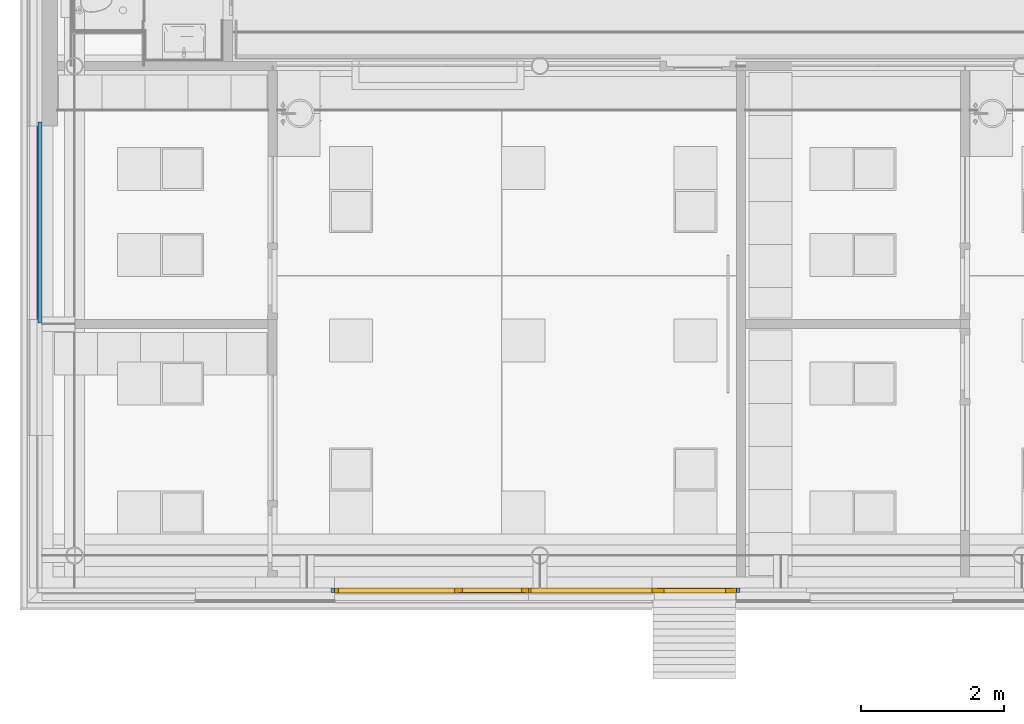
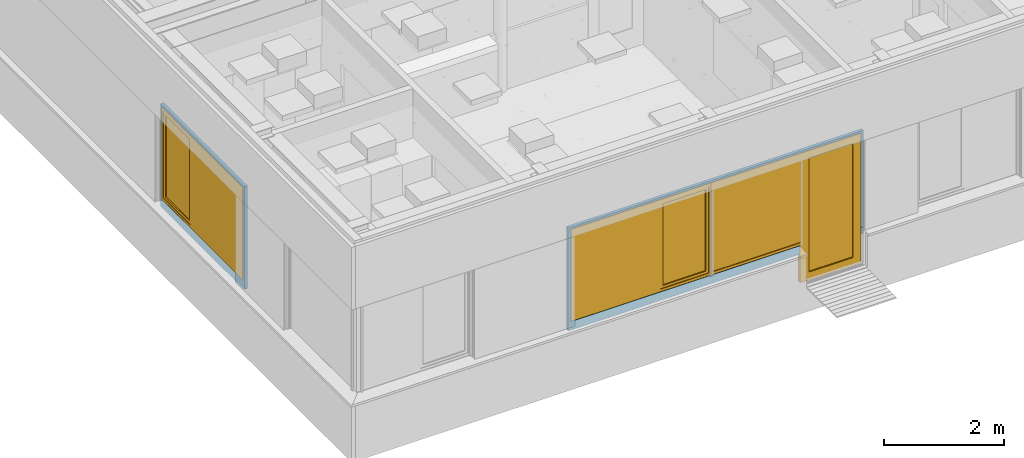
# One storey, part 1 of 347: 2 members, 2 windows, 1 door, 3 openings.
"""IFC2X3 building model written with IfcOpenShell, lengths in millimetres."""

from ifc_helpers import new_model, entity, si_unit, converted_unit, derived_unit, money_unit, direction, frame, origin_with_axes, place, context, subcontext, project, spatial, open_shell, faceted_brep, surface_model, source, transform, mapped, material, type_object, type_shapes, element, fill, save


model = new_model("IFC2X3")

# Units and contexts
model_context = context("Model", 3, precision=0.01, world=origin_with_axes(), true_north=direction((0.0, 1.0)))
plan_context = context("Plan", 3, precision=0.01, world=origin_with_axes(), true_north=direction((0.0, 1.0)))
body_context = subcontext(model_context, "Body", "Model", "MODEL_VIEW")
ifc_project = project(units=[si_unit("LENGTHUNIT", "METRE", prefix="MILLI"), si_unit("AREAUNIT", "SQUARE_METRE"), si_unit("VOLUMEUNIT", "CUBIC_METRE"), converted_unit("PLANEANGLEUNIT", "DEGREE", entity("IfcPlaneAngleMeasure", 0.0174532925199), si_unit("PLANEANGLEUNIT", "RADIAN"), dimensions=[0, 0, 0, 0, 0, 0, 0]), money_unit("EUR"), converted_unit("TIMEUNIT", "Year", entity("IfcTimeMeasure", 31556926.0), si_unit("TIMEUNIT", "SECOND"), dimensions=[0, 0, 1, 0, 0, 0, 0]), si_unit("MASSUNIT", "GRAM", prefix="KILO"), si_unit("THERMODYNAMICTEMPERATUREUNIT", "DEGREE_CELSIUS"), si_unit("LUMINOUSINTENSITYUNIT", "LUMEN"), si_unit("ENERGYUNIT", "JOULE", prefix="MEGA"), derived_unit("THERMALCONDUCTANCEUNIT", [(si_unit("POWERUNIT", "WATT"), 1), (si_unit("LENGTHUNIT", "METRE"), -1), (si_unit("THERMODYNAMICTEMPERATUREUNIT", "KELVIN"), -1)]), derived_unit("SPECIFICHEATCAPACITYUNIT", [(si_unit("ENERGYUNIT", "JOULE"), 1), (si_unit("MASSUNIT", "GRAM", prefix="KILO"), -1), (si_unit("THERMODYNAMICTEMPERATUREUNIT", "KELVIN"), -1)]), derived_unit("MASSDENSITYUNIT", [(si_unit("MASSUNIT", "GRAM", prefix="KILO"), 1), (si_unit("VOLUMEUNIT", "CUBIC_METRE"), -1)])], contexts=[model_context, plan_context])

# Site, building, storey
site_placement = place(None, origin_with_axes())
site = spatial("IfcSite", under=ifc_project, at=site_placement, Name="Site", CompositionType="ELEMENT")
building_placement = place(site_placement, origin_with_axes())
building = spatial("IfcBuilding", under=site, at=building_placement, Name="Naam gebouw", CompositionType="ELEMENT")
storey_placement = place(building_placement, origin_with_axes())
storey = spatial("IfcBuildingStorey", under=building, at=storey_placement, Name="begane grond", CompositionType="ELEMENT", Elevation=0.0)

# Member, opening, window
ifc_material = material(Name="31 pui/kozijn")
member_type = type_object("IfcMemberType", Name="31 pui/kozijn 62", PredefinedType="MEMBER")
member_1_placement = place(storey_placement, frame((4849.99683854, 8540.0, 535.00000231), z_axis=(0.0, 0.0, 1.0), x_axis=(8.95616790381e-06, 0.99999999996, 0.0)))
member_1 = element("IfcMember", 1, at=member_1_placement, inside=storey, type_object=member_type, material=ifc_material, Name="21_31 buitenkozijn pui", ObjectType="MEMBER", context=body_context, shape_type="Brep", body=[
    faceted_brep([(0.0, 62.0, 0.0), (0.0, 62.0, 2100.0), (2800.0, 62.0, 2100.0), (2800.0, 62.0, 0.0), (49.9972863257, 62.0, 184.99999769), (2749.99728633, 62.0, 184.99999769), (2749.99728633, 62.0, 2064.99999769), (49.9972863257, 62.0, 2064.99999769), (0.0, 0.0, 2100.0), (0.0, 0.0, 0.0), (2800.0, 0.0, 2100.0), (2800.0, 0.0, 0.0), (49.9972863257, 0.0, 184.99999769), (2749.99728633, 0.0, 184.99999769), (2749.99728633, 0.0, 2064.99999769), (49.9972863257, 0.0, 2064.99999769)], [[[0, 1, 2, 3], [4, 5, 6, 7]], [[8, 1, 0, 9]], [[1, 8, 10, 2]], [[10, 11, 3, 2]], [[9, 0, 3, 11]], [[12, 13, 5, 4]], [[13, 14, 6, 5]], [[14, 15, 7, 6]], [[15, 12, 4, 7]], [[8, 9, 11, 10], [12, 15, 14, 13]]]),
])
opening_1_placement = place(member_1_placement, frame((1399.99728633, 0.0, 184.99999769), z_axis=(0.0, 0.0, 1.0), x_axis=(1.0, 0.0, 0.0)))
opening_1 = element("IfcOpeningElement", 2, at=opening_1_placement, cuts=member_1, Name="31_merk-AF", context=body_context, shape_type="Brep", body=[
    faceted_brep([(1350.0, 134.0, 0.0), (1350.0, 134.0, 1880.0), (1350.0, -62.0, 1880.0), (1350.0, -62.0, 0.0), (-1350.0, 134.0, 0.0), (-1350.0, 134.0, 1880.0), (-1350.0, -62.0, 1880.0), (-1350.0, -62.0, 0.0)], [[[0, 1, 2, 3]], [[0, 4, 5, 1]], [[1, 5, 6, 2]], [[3, 2, 6, 7]], [[4, 0, 3, 7]], [[5, 4, 7, 6]]]),
])
window_style_1 = type_object("IfcWindowStyle", Name="Rmeerkeuze 25", ConstructionType="NOTDEFINED", OperationType="DOUBLE_PANEL_VERTICAL", ParameterTakesPrecedence=False, Sizeable=False)
shared_shape_1 = source(origin_with_axes(), body_context, "Body", "SurfaceModel", [
    faceted_brep([(-1296.0, -62.0, 1826.0), (-1311.0, -62.0, 1826.0), (-1311.0, 0.0, 1826.0), (-1350.0, 0.0, 1826.0), (-1350.0, -72.0, 1826.0), (-1296.0, -72.0, 1826.0), (-1296.0, -62.0, 54.0), (-1311.0, -62.0, 54.0), (-1311.0, 0.0, 54.0), (-1350.0, 0.0, 54.0), (-1350.0, -72.0, 54.0), (-1296.0, -72.0, 54.0)], [[[0, 1, 2, 3, 4, 5]], [[1, 0, 6, 7]], [[8, 2, 1, 7]], [[2, 8, 9, 3]], [[9, 10, 4, 3]], [[10, 11, 5, 4]], [[6, 0, 5, 11]], [[7, 6, 11, 10, 9, 8]]]),
    faceted_brep([(-362.0, 0.0, 1826.0), (-362.0, -62.0, 1826.0), (-377.0, -62.0, 1826.0), (-377.0, -72.0, 1826.0), (-323.0, -72.0, 1826.0), (-323.0, 0.0, 1826.0), (-362.0, 0.0, 54.0), (-362.0, -62.0, 54.0), (-377.0, -62.0, 54.0), (-377.0, -72.0, 54.0), (-323.0, -72.0, 54.0), (-323.0, 0.0, 54.0)], [[[0, 1, 2, 3, 4, 5]], [[1, 0, 6, 7]], [[8, 2, 1, 7]], [[2, 8, 9, 3]], [[9, 10, 4, 3]], [[5, 4, 10, 11]], [[6, 0, 5, 11]], [[7, 6, 11, 10, 9, 8]]]),
    faceted_brep([(-1296.0, -62.0, 54.0), (-1311.0, -62.0, 54.0), (-1311.0, 0.0, 54.0), (-1350.0, 0.0, 54.0), (-1350.0, -72.0, 54.0), (-1296.0, -72.0, 54.0), (-377.0, -62.0, 54.0), (-362.0, -62.0, 54.0), (-362.0, -62.0, 39.0), (-1311.0, -62.0, 39.0), (-1311.0, 0.0, 39.0), (-362.0, 0.0, 39.0), (-362.0, 0.0, 54.0), (-323.0, 0.0, 54.0), (1296.0, 0.0, 54.0), (1350.0, 0.0, 54.0), (1350.0, 0.0, 0.0), (-1350.0, 0.0, 0.0), (-1350.0, -72.0, 0.0), (1350.0, -72.0, 54.0), (1296.0, -72.0, 54.0), (-323.0, -72.0, 54.0), (-377.0, -72.0, 54.0), (1350.0, -72.0, 0.0)], [[[0, 1, 2, 3, 4, 5]], [[1, 0, 6, 7, 8, 9]], [[10, 2, 1, 9]], [[11, 12, 13, 14, 15, 16, 17, 3, 2, 10]], [[17, 18, 4, 3]], [[19, 20, 21, 22, 5, 4, 18, 23]], [[6, 0, 5, 22]], [[7, 6, 22, 21, 13, 12]], [[7, 12, 11, 8]], [[11, 10, 9, 8]], [[13, 21, 20, 14]], [[14, 20, 19, 15]], [[15, 19, 23, 16]], [[16, 23, 18, 17]]]),
    faceted_brep([(-362.0, 0.0, 1826.0), (-362.0, 0.0, 1841.0), (-1311.0, 0.0, 1841.0), (-1311.0, 0.0, 1826.0), (-1350.0, 0.0, 1826.0), (-1350.0, 0.0, 1880.0), (1350.0, 0.0, 1880.0), (1350.0, 0.0, 1826.0), (1296.0, 0.0, 1826.0), (-323.0, 0.0, 1826.0), (-362.0, -62.0, 1826.0), (-362.0, -62.0, 1841.0), (-1311.0, -62.0, 1841.0), (-1311.0, -62.0, 1826.0), (-1296.0, -62.0, 1826.0), (-1296.0, -72.0, 1826.0), (-1350.0, -72.0, 1826.0), (-1350.0, -72.0, 1880.0), (1350.0, -72.0, 1880.0), (1350.0, -72.0, 1826.0), (1296.0, -72.0, 1826.0), (-323.0, -72.0, 1826.0), (-377.0, -72.0, 1826.0), (-377.0, -62.0, 1826.0)], [[[0, 1, 2, 3, 4, 5, 6, 7, 8, 9]], [[1, 0, 10, 11]], [[2, 1, 11, 12]], [[3, 2, 12, 13]], [[13, 14, 15, 16, 4, 3]], [[4, 16, 17, 5]], [[5, 17, 18, 6]], [[6, 18, 19, 7]], [[7, 19, 20, 8]], [[8, 20, 21, 9]], [[10, 0, 9, 21, 22, 23]], [[14, 13, 12, 11, 10, 23]], [[14, 23, 22, 15]], [[22, 21, 20, 19, 18, 17, 16, 15]]]),
    faceted_brep([(1296.0, -72.0, 1826.0), (1350.0, -72.0, 1826.0), (1350.0, 0.0, 1826.0), (1296.0, 0.0, 1826.0), (1296.0, -72.0, 54.0), (1350.0, -72.0, 54.0), (1350.0, 0.0, 54.0), (1296.0, 0.0, 54.0)], [[[0, 1, 2, 3]], [[0, 4, 5, 1]], [[1, 5, 6, 2]], [[3, 2, 6, 7]], [[4, 0, 3, 7]], [[5, 4, 7, 6]]]),
    surface_model("IfcShellBasedSurfaceModel", [(1296.0, -72.0, 54.0), (1296.0, -72.0, 1826.0), (-323.0, -72.0, 1826.0), (-323.0, -72.0, 54.0)], [open_shell([[[0, 1, 2, 3]]])]),
    surface_model("IfcShellBasedSurfaceModel", [(1296.0, -52.0, 54.0), (-323.0, -52.0, 54.0), (-323.0, -52.0, 1826.0), (1296.0, -52.0, 1826.0)], [open_shell([[[0, 1, 2, 3]]])]),
    faceted_brep([(-430.0, -62.0, 1773.0), (-362.0, -62.0, 1773.0), (-362.0, 0.0, 1773.0), (-430.0, 0.0, 1773.0), (-430.0, -62.0, 107.0), (-362.0, -62.0, 107.0), (-362.0, 0.0, 107.0), (-430.0, 0.0, 107.0)], [[[0, 1, 2, 3]], [[0, 4, 5, 1]], [[1, 5, 6, 2]], [[3, 2, 6, 7]], [[4, 0, 3, 7]], [[5, 4, 7, 6]]]),
    faceted_brep([(-1243.0, -62.0, 107.0), (-1311.0, -62.0, 107.0), (-1311.0, 0.0, 107.0), (-1243.0, 0.0, 107.0), (-1243.0, -62.0, 1773.0), (-1311.0, -62.0, 1773.0), (-1311.0, 0.0, 1773.0), (-1243.0, 0.0, 1773.0)], [[[0, 1, 2, 3]], [[0, 4, 5, 1]], [[1, 5, 6, 2]], [[3, 2, 6, 7]], [[4, 0, 3, 7]], [[5, 4, 7, 6]]]),
    faceted_brep([(-1311.0, -62.0, 39.0), (-1311.0, -62.0, 107.0), (-1311.0, 0.0, 107.0), (-1311.0, 0.0, 39.0), (-362.0, -62.0, 39.0), (-362.0, -62.0, 107.0), (-430.0, -62.0, 107.0), (-1243.0, -62.0, 107.0), (-1243.0, 0.0, 107.0), (-430.0, 0.0, 107.0), (-362.0, 0.0, 107.0), (-362.0, 0.0, 39.0)], [[[0, 1, 2, 3]], [[0, 4, 5, 6, 7, 1]], [[1, 7, 8, 2]], [[3, 2, 8, 9, 10, 11]], [[4, 0, 3, 11]], [[5, 4, 11, 10]], [[6, 5, 10, 9]], [[7, 6, 9, 8]]]),
    faceted_brep([(-362.0, -62.0, 1841.0), (-362.0, -62.0, 1773.0), (-362.0, 0.0, 1773.0), (-362.0, 0.0, 1841.0), (-1311.0, -62.0, 1841.0), (-1311.0, -62.0, 1773.0), (-1243.0, -62.0, 1773.0), (-430.0, -62.0, 1773.0), (-430.0, 0.0, 1773.0), (-1243.0, 0.0, 1773.0), (-1311.0, 0.0, 1773.0), (-1311.0, 0.0, 1841.0)], [[[0, 1, 2, 3]], [[0, 4, 5, 6, 7, 1]], [[1, 7, 8, 2]], [[3, 2, 8, 9, 10, 11]], [[4, 0, 3, 11]], [[5, 4, 11, 10]], [[6, 5, 10, 9]], [[7, 6, 9, 8]]]),
    surface_model("IfcShellBasedSurfaceModel", [(-430.0, -41.0, 107.0), (-430.0, -41.0, 1773.0), (-1243.0, -41.0, 1773.0), (-1243.0, -41.0, 107.0)], [open_shell([[[0, 1, 2, 3]]])]),
    surface_model("IfcShellBasedSurfaceModel", [(-430.0, -21.0, 107.0), (-1243.0, -21.0, 107.0), (-1243.0, -21.0, 1773.0), (-430.0, -21.0, 1773.0)], [open_shell([[[0, 1, 2, 3]]])]),
])
type_shapes(window_style_1, [shared_shape_1])
window_1_placement = place(opening_1_placement, frame((1350.0, 0.0, 0.0), z_axis=(0.0, 0.0, 1.0), x_axis=(-1.0, 0.0, 0.0)))
window_1 = element("IfcWindow", 3, at=window_1_placement, inside=storey, type_object=window_style_1, Name="31_merk-AF", ObjectType="WINDOW", OverallHeight=1880.0, OverallWidth=2700.0, context=body_context, shape_type="MappedRepresentation", body=[
    mapped(shared_shape_1, transform((1350.0, 0.0, 0.0))),
])
fill(opening_1, window_1)

# Member, openings, window, door
member_2_placement = place(storey_placement, frame((14575.0, 4850.0, 535.00000231), z_axis=(0.0, 0.0, 1.0), x_axis=(-1.0, 0.0, 0.0)))
member_2 = element("IfcMember", 4, at=member_2_placement, inside=storey, type_object=member_type, material=ifc_material, Name="21_31 buitenkozijn pui", ObjectType="MEMBER", context=body_context, shape_type="Brep", body=[
    faceted_brep([(50.0, 0.0, 2064.99999769), (2950.0, 0.0, 2064.99999769), (5650.0, 0.0, 2064.99999769), (5650.0, 0.0, 184.99999769), (2950.0, 0.0, 184.99999769), (1227.0, 0.0, 184.99999769), (1227.0, 0.0, 0.0), (5700.0, 0.0, 0.0), (5700.0, 0.0, 2100.0), (0.0, 0.0, 2100.0), (0.0, 0.0, 0.0), (50.0, 0.0, 0.0), (50.0, 62.0, 2064.99999769), (2950.0, 62.0, 2064.99999769), (5650.0, 62.0, 2064.99999769), (5650.0, 62.0, 184.99999769), (2950.0, 62.0, 184.99999769), (1227.0, 62.0, 184.99999769), (1227.0, 62.0, 0.0), (5700.0, 62.0, 0.0), (5700.0, 62.0, 2100.0), (0.0, 62.0, 2100.0), (0.0, 62.0, 0.0), (50.0, 62.0, 0.0)], [[[0, 1, 2, 3, 4, 5, 6, 7, 8, 9, 10, 11]], [[1, 0, 12, 13, 14, 2]], [[2, 14, 15, 3]], [[16, 17, 5, 4, 3, 15]], [[6, 5, 17, 18]], [[6, 18, 19, 7]], [[20, 8, 7, 19]], [[20, 21, 9, 8]], [[10, 9, 21, 22]], [[23, 11, 10, 22]], [[0, 11, 23, 12]], [[12, 23, 22, 21, 20, 19, 18, 17, 16, 15, 14, 13]]]),
])
opening_2_placement = place(member_2_placement, frame((4300.0, 0.0, 184.99999769), z_axis=(0.0, 0.0, 1.0), x_axis=(1.0, 0.0, 0.0)))
opening_2 = element("IfcOpeningElement", 5, at=opening_2_placement, cuts=member_2, Name="31_merk-AC1", context=body_context, shape_type="Brep", body=[
    faceted_brep([(-1350.0, -62.0, 0.0), (-1350.0, -62.0, 1880.0), (-1350.0, 134.0, 1880.0), (-1350.0, 134.0, 0.0), (1350.0, -62.0, 0.0), (1350.0, -62.0, 1880.0), (1350.0, 134.0, 1880.0), (1350.0, 134.0, 0.0)], [[[0, 1, 2, 3]], [[0, 4, 5, 1]], [[1, 5, 6, 2]], [[3, 2, 6, 7]], [[4, 0, 3, 7]], [[5, 4, 7, 6]]]),
])
opening_3_placement = place(member_2_placement, frame((1500.0, 0.0, -575.00000231), z_axis=(0.0, 0.0, 1.0), x_axis=(1.0, 0.0, 0.0)))
opening_3 = element("IfcOpeningElement", 6, at=opening_3_placement, cuts=member_2, Name="32_merk-AC2", context=body_context, shape_type="Brep", body=[
    faceted_brep([(1450.0, 134.0, 760.000007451), (1450.0, 134.0, 2640.0), (1450.0, -62.0, 2640.0), (1450.0, -62.0, 760.000007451), (-273.000017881, 134.0, 760.000007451), (-273.000017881, 134.0, -1.49011645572e-06), (-1450.0, 134.0, -1.49011645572e-06), (-1450.0, 134.0, 2640.0), (-1450.0, -62.0, 2640.0), (-1450.0, -62.0, -1.49011646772e-06), (-273.000017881, -62.0, -1.49011646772e-06), (-273.000017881, -62.0, 760.000007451)], [[[0, 1, 2, 3]], [[0, 4, 5, 6, 7, 1]], [[1, 7, 8, 2]], [[3, 2, 8, 9, 10, 11]], [[4, 0, 3, 11]], [[5, 4, 11, 10]], [[6, 5, 10, 9]], [[7, 6, 9, 8]]]),
])
window_style_2 = type_object("IfcWindowStyle", Name="Rmeerkeuze 25", ConstructionType="NOTDEFINED", OperationType="DOUBLE_PANEL_VERTICAL", ParameterTakesPrecedence=False, Sizeable=False)
shared_shape_2 = source(origin_with_axes(), body_context, "Body", "SurfaceModel", [
    faceted_brep([(1311.0, -62.0, 1826.0), (1311.0, -72.0, 1826.0), (1350.0, -72.0, 1826.0), (1350.0, 0.0, 1826.0), (1326.0, 0.0, 1826.0), (1326.0, -62.0, 1826.0), (1311.0, -62.0, 54.0), (1311.0, -72.0, 54.0), (1350.0, -72.0, 54.0), (1350.0, 0.0, 54.0), (1326.0, 0.0, 54.0), (1326.0, -62.0, 54.0)], [[[0, 1, 2, 3, 4, 5]], [[6, 7, 1, 0]], [[8, 2, 1, 7]], [[9, 3, 2, 8]], [[4, 3, 9, 10]], [[10, 11, 5, 4]], [[5, 11, 6, 0]], [[11, 10, 9, 8, 7, 6]]]),
    faceted_brep([(362.0, 0.0, 1826.0), (323.0, 0.0, 1826.0), (323.0, -72.0, 1826.0), (377.0, -72.0, 1826.0), (377.0, -62.0, 1826.0), (362.0, -62.0, 1826.0), (362.0, 0.0, 54.0), (323.0, 0.0, 54.0), (323.0, -72.0, 54.0), (377.0, -72.0, 54.0), (377.0, -62.0, 54.0), (362.0, -62.0, 54.0)], [[[0, 1, 2, 3, 4, 5]], [[6, 7, 1, 0]], [[1, 7, 8, 2]], [[9, 3, 2, 8]], [[4, 3, 9, 10]], [[10, 11, 5, 4]], [[5, 11, 6, 0]], [[11, 10, 9, 8, 7, 6]]]),
    faceted_brep([(1311.0, -62.0, 54.0), (1311.0, -72.0, 54.0), (1350.0, -72.0, 54.0), (1350.0, 0.0, 54.0), (1326.0, 0.0, 54.0), (1326.0, -62.0, 54.0), (377.0, -62.0, 54.0), (377.0, -72.0, 54.0), (-1350.0, -72.0, 54.0), (-1350.0, -72.0, 0.0), (1350.0, -72.0, 0.0), (323.0, -72.0, 54.0), (-1296.0, -72.0, 54.0), (1350.0, 0.0, 0.0), (362.0, 0.0, 39.0), (1326.0, 0.0, 39.0), (-1350.0, 0.0, 0.0), (-1350.0, 0.0, 54.0), (-1296.0, 0.0, 54.0), (323.0, 0.0, 54.0), (362.0, 0.0, 54.0), (1326.0, -62.0, 39.0), (362.0, -62.0, 39.0), (362.0, -62.0, 54.0)], [[[0, 1, 2, 3, 4, 5]], [[6, 7, 1, 0]], [[8, 9, 10, 2, 1, 7, 11, 12]], [[13, 3, 2, 10]], [[14, 15, 4, 3, 13, 16, 17, 18, 19, 20]], [[15, 21, 5, 4]], [[5, 21, 22, 23, 6, 0]], [[23, 20, 19, 11, 7, 6]], [[17, 16, 9, 8]], [[16, 13, 10, 9]], [[19, 18, 12, 11]], [[18, 17, 8, 12]], [[14, 22, 21, 15]], [[23, 22, 14, 20]]]),
    faceted_brep([(362.0, 0.0, 1826.0), (323.0, 0.0, 1826.0), (-1296.0, 0.0, 1826.0), (-1350.0, 0.0, 1826.0), (-1350.0, 0.0, 1880.0), (1350.0, 0.0, 1880.0), (1350.0, 0.0, 1826.0), (1326.0, 0.0, 1826.0), (1326.0, 0.0, 1841.0), (362.0, 0.0, 1841.0), (362.0, -62.0, 1826.0), (377.0, -62.0, 1826.0), (377.0, -72.0, 1826.0), (323.0, -72.0, 1826.0), (-1296.0, -72.0, 1826.0), (-1350.0, -72.0, 1826.0), (-1350.0, -72.0, 1880.0), (1350.0, -72.0, 1880.0), (1350.0, -72.0, 1826.0), (1326.0, -62.0, 1826.0), (1311.0, -72.0, 1826.0), (1311.0, -62.0, 1826.0), (1326.0, -62.0, 1841.0), (362.0, -62.0, 1841.0)], [[[0, 1, 2, 3, 4, 5, 6, 7, 8, 9]], [[10, 11, 12, 13, 1, 0]], [[2, 1, 13, 14]], [[3, 2, 14, 15]], [[4, 3, 15, 16]], [[5, 4, 16, 17]], [[6, 5, 17, 18]], [[19, 7, 6, 18, 20, 21]], [[7, 19, 22, 8]], [[8, 22, 23, 9]], [[9, 23, 10, 0]], [[21, 11, 10, 23, 22, 19]], [[21, 20, 12, 11]], [[12, 20, 18, 17, 16, 15, 14, 13]]]),
    faceted_brep([(-1296.0, -72.0, 1826.0), (-1296.0, 0.0, 1826.0), (-1350.0, 0.0, 1826.0), (-1350.0, -72.0, 1826.0), (-1296.0, -72.0, 54.0), (-1296.0, 0.0, 54.0), (-1350.0, 0.0, 54.0), (-1350.0, -72.0, 54.0)], [[[0, 1, 2, 3]], [[4, 5, 1, 0]], [[1, 5, 6, 2]], [[3, 2, 6, 7]], [[0, 3, 7, 4]], [[7, 6, 5, 4]]]),
    surface_model("IfcShellBasedSurfaceModel", [(-1296.0, -72.0, 54.0), (323.0, -72.0, 54.0), (323.0, -72.0, 1826.0), (-1296.0, -72.0, 1826.0)], [open_shell([[[0, 1, 2, 3]]])]),
    surface_model("IfcShellBasedSurfaceModel", [(-1296.0, -52.0, 54.0), (-1296.0, -52.0, 1826.0), (323.0, -52.0, 1826.0), (323.0, -52.0, 54.0)], [open_shell([[[0, 1, 2, 3]]])]),
    faceted_brep([(430.0, -62.0, 1773.0), (430.0, 0.0, 1773.0), (362.0, 0.0, 1773.0), (362.0, -62.0, 1773.0), (430.0, -62.0, 107.0), (430.0, 0.0, 107.0), (362.0, 0.0, 107.0), (362.0, -62.0, 107.0)], [[[0, 1, 2, 3]], [[4, 5, 1, 0]], [[1, 5, 6, 2]], [[3, 2, 6, 7]], [[0, 3, 7, 4]], [[7, 6, 5, 4]]]),
    faceted_brep([(1258.0, -62.0, 107.0), (1258.0, 0.0, 107.0), (1326.0, 0.0, 107.0), (1326.0, -62.0, 107.0), (1258.0, -62.0, 1773.0), (1258.0, 0.0, 1773.0), (1326.0, 0.0, 1773.0), (1326.0, -62.0, 1773.0)], [[[0, 1, 2, 3]], [[4, 5, 1, 0]], [[1, 5, 6, 2]], [[3, 2, 6, 7]], [[0, 3, 7, 4]], [[7, 6, 5, 4]]]),
    faceted_brep([(1326.0, -62.0, 39.0), (1326.0, 0.0, 39.0), (1326.0, 0.0, 107.0), (1326.0, -62.0, 107.0), (362.0, -62.0, 39.0), (362.0, 0.0, 39.0), (362.0, 0.0, 107.0), (430.0, 0.0, 107.0), (1258.0, 0.0, 107.0), (1258.0, -62.0, 107.0), (430.0, -62.0, 107.0), (362.0, -62.0, 107.0)], [[[0, 1, 2, 3]], [[4, 5, 1, 0]], [[1, 5, 6, 7, 8, 2]], [[3, 2, 8, 9]], [[0, 3, 9, 10, 11, 4]], [[11, 6, 5, 4]], [[10, 7, 6, 11]], [[9, 8, 7, 10]]]),
    faceted_brep([(362.0, -62.0, 1841.0), (362.0, 0.0, 1841.0), (362.0, 0.0, 1773.0), (362.0, -62.0, 1773.0), (1326.0, -62.0, 1841.0), (1326.0, 0.0, 1841.0), (1326.0, 0.0, 1773.0), (1258.0, 0.0, 1773.0), (430.0, 0.0, 1773.0), (430.0, -62.0, 1773.0), (1258.0, -62.0, 1773.0), (1326.0, -62.0, 1773.0)], [[[0, 1, 2, 3]], [[4, 5, 1, 0]], [[1, 5, 6, 7, 8, 2]], [[3, 2, 8, 9]], [[0, 3, 9, 10, 11, 4]], [[11, 6, 5, 4]], [[10, 7, 6, 11]], [[9, 8, 7, 10]]]),
    surface_model("IfcShellBasedSurfaceModel", [(430.0, -41.0, 107.0), (1258.0, -41.0, 107.0), (1258.0, -41.0, 1773.0), (430.0, -41.0, 1773.0)], [open_shell([[[0, 1, 2, 3]]])]),
    surface_model("IfcShellBasedSurfaceModel", [(430.0, -21.0, 107.0), (430.0, -21.0, 1773.0), (1258.0, -21.0, 1773.0), (1258.0, -21.0, 107.0)], [open_shell([[[0, 1, 2, 3]]])]),
])
type_shapes(window_style_2, [shared_shape_2])
window_2_placement = place(opening_2_placement, frame((1350.0, 0.0, 0.0), z_axis=(0.0, 0.0, 1.0), x_axis=(-1.0, 0.0, 0.0)))
window_2 = element("IfcWindow", 7, at=window_2_placement, inside=storey, type_object=window_style_2, Name="31_merk-AC1", ObjectType="WINDOW", OverallHeight=1880.0, OverallWidth=2700.0, context=body_context, shape_type="MappedRepresentation", body=[
    mapped(shared_shape_2, transform((1350.0, 0.0, 0.0))),
])
fill(opening_2, window_2)
door_style = type_object("IfcDoorStyle", Name="D1 zl1-b 25", ConstructionType="NOTDEFINED", OperationType="SINGLE_SWING_LEFT", ParameterTakesPrecedence=False, Sizeable=False)
shared_shape_3 = source(origin_with_axes(), body_context, "Body", "SurfaceModel", [
    faceted_brep([(-1396.0, 0.0, 0.0), (-341.0, 0.0, 0.0), (-341.0, -72.0, 0.0), (-1396.0, -72.0, 0.0), (-1396.0, 0.0, 48.0), (-341.0, 0.0, 48.0), (-341.0, -72.0, 48.0), (-1396.0, -72.0, 48.0)], [[[0, 1, 2, 3]], [[4, 5, 1, 0]], [[1, 5, 6, 2]], [[3, 2, 6, 7]], [[0, 3, 7, 4]], [[7, 6, 5, 4]]]),
    faceted_brep([(1450.0, 0.0, 760.0), (1450.0, -72.0, 760.0), (1411.0, -72.0, 760.0), (1411.0, 0.0, 760.0), (1450.0, 0.0, 2586.0), (1450.0, -72.0, 2586.0), (1411.0, -72.0, 2586.0), (1411.0, -72.0, 814.0), (1411.0, 0.0, 814.0), (1411.0, 0.0, 2586.0)], [[[0, 1, 2, 3]], [[4, 5, 1, 0]], [[1, 5, 6, 7, 2]], [[3, 2, 7, 8]], [[0, 3, 8, 9, 4]], [[9, 6, 5, 4]], [[8, 7, 6, 9]]]),
    faceted_brep([(-273.0, 0.0, 2586.0), (-273.0, -72.0, 2586.0), (-273.0, -72.0, 814.0), (-273.0, 0.0, 814.0), (-341.0, 0.0, 2586.0), (-341.0, -72.0, 2586.0), (-341.0, -72.0, 0.0), (-273.0, -72.0, 0.0), (-273.0, -72.0, 760.0), (-273.0, 0.0, 760.0), (-273.0, 0.0, 0.0), (-341.0, 0.0, 0.0)], [[[0, 1, 2, 3]], [[4, 5, 1, 0]], [[1, 5, 6, 7, 8, 2]], [[3, 2, 8, 9]], [[0, 3, 9, 10, 11, 4]], [[11, 6, 5, 4]], [[10, 7, 6, 11]], [[9, 8, 7, 10]]]),
    faceted_brep([(1411.0, 0.0, 814.0), (1411.0, -72.0, 814.0), (1411.0, -72.0, 760.0), (1411.0, 0.0, 760.0), (-273.0, 0.0, 814.0), (-273.0, -72.0, 814.0), (-273.0, -72.0, 760.0), (-273.0, 0.0, 760.0)], [[[0, 1, 2, 3]], [[4, 5, 1, 0]], [[1, 5, 6, 2]], [[3, 2, 6, 7]], [[0, 3, 7, 4]], [[7, 6, 5, 4]]]),
    faceted_brep([(-1450.0, 0.0, 0.0), (-1450.0, -72.0, 0.0), (-1450.0, -72.0, 2586.0), (-1450.0, 0.0, 2586.0), (-1396.0, 0.0, 0.0), (-1396.0, -72.0, 0.0), (-1396.0, -72.0, 2586.0), (-1396.0, 0.0, 2586.0)], [[[0, 1, 2, 3]], [[4, 5, 1, 0]], [[1, 5, 6, 2]], [[3, 2, 6, 7]], [[0, 3, 7, 4]], [[7, 6, 5, 4]]]),
    faceted_brep([(1450.0, 0.0, 2640.0), (1450.0, -72.0, 2640.0), (1450.0, -72.0, 2586.0), (1450.0, 0.0, 2586.0), (-1450.0, 0.0, 2640.0), (-1450.0, -72.0, 2640.0), (-1450.0, -72.0, 2586.0), (-1396.0, -72.0, 2586.0), (-341.0, -72.0, 2586.0), (-273.0, -72.0, 2586.0), (1411.0, -72.0, 2586.0), (1411.0, 0.0, 2586.0), (-273.0, 0.0, 2586.0), (-341.0, 0.0, 2586.0), (-1396.0, 0.0, 2586.0), (-1450.0, 0.0, 2586.0)], [[[0, 1, 2, 3]], [[4, 5, 1, 0]], [[1, 5, 6, 7, 8, 9, 10, 2]], [[3, 2, 10, 11]], [[0, 3, 11, 12, 13, 14, 15, 4]], [[15, 6, 5, 4]], [[14, 7, 6, 15]], [[13, 8, 7, 14]], [[12, 9, 8, 13]], [[11, 10, 9, 12]]]),
    faceted_brep([(-1396.0, 0.0, 158.0), (-1296.0, 0.0, 158.0), (-1296.0, -62.0, 158.0), (-1396.0, -62.0, 158.0), (-1396.0, 0.0, 2486.0), (-1296.0, 0.0, 2486.0), (-1296.0, -62.0, 2486.0), (-1396.0, -62.0, 2486.0)], [[[0, 1, 2, 3]], [[0, 4, 5, 1]], [[1, 5, 6, 2]], [[3, 2, 6, 7]], [[4, 0, 3, 7]], [[5, 4, 7, 6]]]),
    faceted_brep([(-341.0, 0.0, 158.0), (-341.0, 0.0, 2486.0), (-341.0, -62.0, 2486.0), (-341.0, -62.0, 158.0), (-441.0, 0.0, 158.0), (-441.0, 0.0, 2486.0), (-441.0, -62.0, 2486.0), (-441.0, -62.0, 158.0)], [[[0, 1, 2, 3]], [[0, 4, 5, 1]], [[1, 5, 6, 2]], [[3, 2, 6, 7]], [[4, 0, 3, 7]], [[5, 4, 7, 6]]]),
    faceted_brep([(-1396.0, 0.0, 48.0), (-341.0, 0.0, 48.0), (-341.0, -62.0, 48.0), (-1396.0, -62.0, 48.0), (-1396.0, 0.0, 158.0), (-1296.0, 0.0, 158.0), (-441.0, 0.0, 158.0), (-341.0, 0.0, 158.0), (-341.0, -62.0, 158.0), (-441.0, -62.0, 158.0), (-1296.0, -62.0, 158.0), (-1396.0, -62.0, 158.0)], [[[0, 1, 2, 3]], [[0, 4, 5, 6, 7, 1]], [[1, 7, 8, 2]], [[3, 2, 8, 9, 10, 11]], [[4, 0, 3, 11]], [[5, 4, 11, 10]], [[6, 5, 10, 9]], [[7, 6, 9, 8]]]),
    faceted_brep([(-1396.0, 0.0, 2586.0), (-1396.0, 0.0, 2486.0), (-1396.0, -62.0, 2486.0), (-1396.0, -62.0, 2586.0), (-341.0, 0.0, 2586.0), (-341.0, 0.0, 2486.0), (-441.0, 0.0, 2486.0), (-1296.0, 0.0, 2486.0), (-1296.0, -62.0, 2486.0), (-441.0, -62.0, 2486.0), (-341.0, -62.0, 2486.0), (-341.0, -62.0, 2586.0)], [[[0, 1, 2, 3]], [[0, 4, 5, 6, 7, 1]], [[1, 7, 8, 2]], [[3, 2, 8, 9, 10, 11]], [[4, 0, 3, 11]], [[5, 4, 11, 10]], [[6, 5, 10, 9]], [[7, 6, 9, 8]]]),
    surface_model("IfcShellBasedSurfaceModel", [(-1296.0, -25.0, 158.0), (-1296.0, -25.0, 2486.0), (-441.0, -25.0, 2486.0), (-441.0, -25.0, 158.0)], [open_shell([[[0, 1, 2, 3]]])]),
    surface_model("IfcShellBasedSurfaceModel", [(-1296.0, -37.0, 158.0), (-441.0, -37.0, 158.0), (-441.0, -37.0, 2486.0), (-1296.0, -37.0, 2486.0)], [open_shell([[[0, 1, 2, 3]]])]),
    surface_model("IfcShellBasedSurfaceModel", [(1411.0, -12.0, 814.0), (-273.0, -12.0, 814.0), (-273.0, -12.0, 2586.0), (1411.0, -12.0, 2586.0)], [open_shell([[[0, 1, 2, 3]]])]),
    surface_model("IfcShellBasedSurfaceModel", [(1411.0, -24.0, 814.0), (1411.0, -24.0, 2586.0), (-273.0, -24.0, 2586.0), (-273.0, -24.0, 814.0)], [open_shell([[[0, 1, 2, 3]]])]),
])
type_shapes(door_style, [shared_shape_3])
door_placement = place(opening_3_placement, frame((-1450.0, 0.0, 0.0), z_axis=(0.0, 0.0, 1.0), x_axis=(1.0, 0.0, 0.0)))
door = element("IfcDoor", 8, at=door_placement, inside=storey, type_object=door_style, Name="32_merk-AC2", ObjectType="DOOR", OverallHeight=2640.0, OverallWidth=2900.0, context=body_context, shape_type="MappedRepresentation", body=[
    mapped(shared_shape_3, transform((1450.0, 72.0, 0.0))),
])
fill(opening_3, door)

save(model, "model.ifc")
